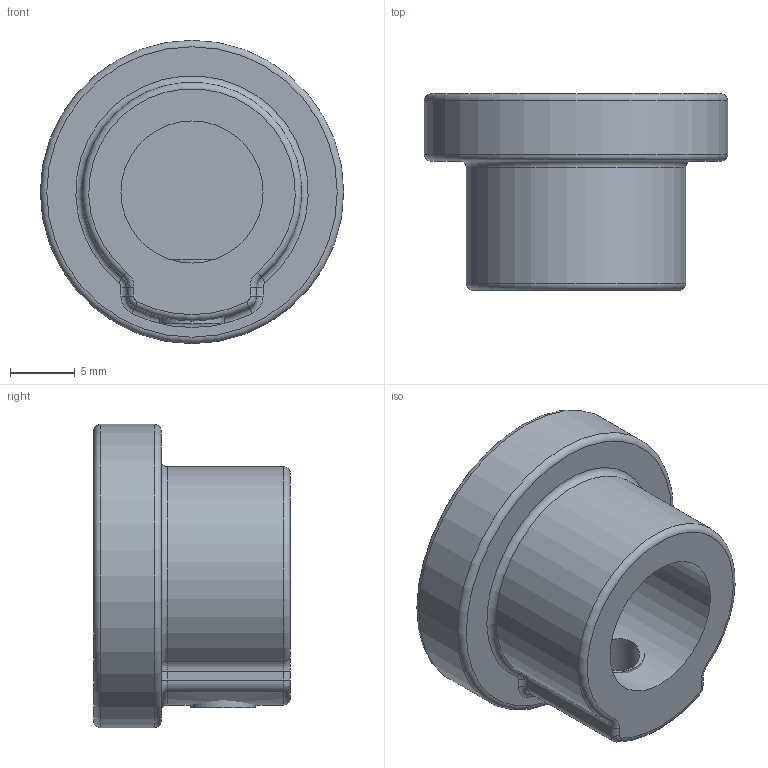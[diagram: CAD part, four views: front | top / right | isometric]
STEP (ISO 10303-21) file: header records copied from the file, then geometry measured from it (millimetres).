
FILE_DESCRIPTION(/* description */ (''),/* implementation_level */ '2;1');
FILE_NAME(/* name */ 'H:\5-Olympiades\47e\Sujet Régional\Etau\A donner aux candidats\2-Après-Midi\21-Patin de serrage.stp',/* time_stamp */ '2022-03-30T09:38:23+02:00',/* author */ ('Philippe'),/* organization */ (''),/* preprocessor_version */ 'ST-DEVELOPER v18',/* originating_system */ 'Autodesk Inventor 2020',/* authorisation */ '');
FILE_SCHEMA (('CONFIG_CONTROL_DESIGN'));
Length unit declared in the file: millimetre
Products named in the file (1): 21-Patin de serrage
Bounding box: 23.5 x 15.2 x 23.5 mm (x, y, z)
Volume: 3569.1 mm3; surface area: 2230.1 mm2
Topology: 1 solids, 2 shells, 34 faces, 83 edges, 54 vertices
Faces by surface type: cylinder 14, torus 10, plane 6, bspline 4
Full cylindrical faces by diameter (mm): 4.134 x1, 11 x1, 23.5 x1
Entity records: 1153 total; most frequent: CARTESIAN_POINT 273, DIRECTION 199, ORIENTED_EDGE 162, AXIS2_PLACEMENT_3D 89, EDGE_CURVE 83, CIRCLE 58, VERTEX_POINT 54, EDGE_LOOP 38
